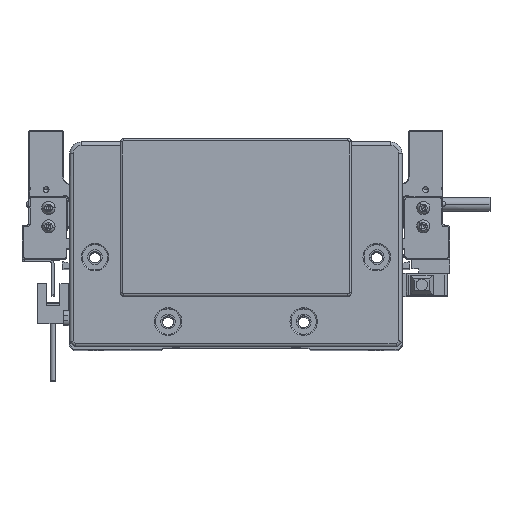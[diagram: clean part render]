
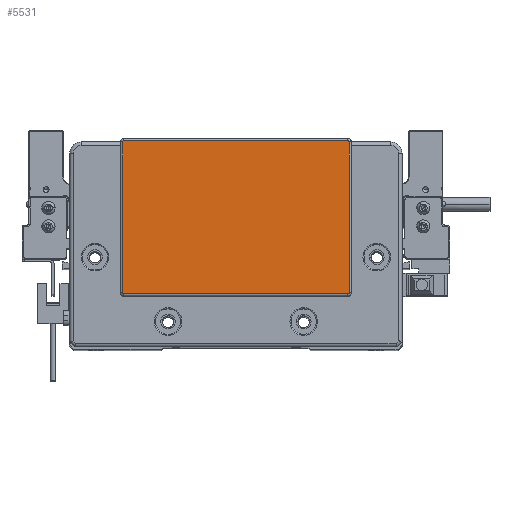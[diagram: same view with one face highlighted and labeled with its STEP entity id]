
A CAD part, top view. The second image highlights one B-rep face of the part: STEP entity #5531.
In plain terms, the highlighted planar face has unit normal (0, 0, 1) as drawn and (0, 0, -1) by its records, which use the part's own axes.
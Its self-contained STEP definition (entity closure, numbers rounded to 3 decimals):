
#773 = CIRCLE ( 'NONE', #60019, 0.5 ) ;
#1262 = LINE ( 'NONE', #47114, #17023 ) ;
#1528 = VECTOR ( 'NONE', #57333, 1000. ) ;
#2898 = VERTEX_POINT ( 'NONE', #42552 ) ;
#4297 = LINE ( 'NONE', #51646, #1528 ) ;
#5531 = ADVANCED_FACE ( 'NONE', ( #73326 ), #15737, .T. ) ;
#7217 = DIRECTION ( 'NONE',  ( 0., 0., -1. ) ) ;
#7419 = CARTESIAN_POINT ( 'NONE',  ( -48.75, -22.3, -2. ) ) ;
#9794 = EDGE_CURVE ( 'NONE', #39816, #46398, #71436, .T. ) ;
#10434 = CARTESIAN_POINT ( 'NONE',  ( -48.75, 43.8, -2. ) ) ;
#12453 = VECTOR ( 'NONE', #33085, 1000. ) ;
#12743 = DIRECTION ( 'NONE',  ( -1., 0., 0. ) ) ;
#13107 = EDGE_CURVE ( 'NONE', #2898, #23479, #33836, .T. ) ;
#14594 = VERTEX_POINT ( 'NONE', #24204 ) ;
#15704 = VERTEX_POINT ( 'NONE', #34223 ) ;
#15737 = PLANE ( 'NONE',  #56465 ) ;
#17023 = VECTOR ( 'NONE', #36115, 1000. ) ;
#20316 = CARTESIAN_POINT ( 'NONE',  ( 49.25, -21.8, -2. ) ) ;
#22622 = EDGE_CURVE ( 'NONE', #15704, #2898, #62664, .T. ) ;
#23361 = CIRCLE ( 'NONE', #42710, 0.5 ) ;
#23479 = VERTEX_POINT ( 'NONE', #20316 ) ;
#24204 = CARTESIAN_POINT ( 'NONE',  ( -49.25, 43.8, -2. ) ) ;
#25824 = CARTESIAN_POINT ( 'NONE',  ( 48.75, -22.3, -2. ) ) ;
#26953 = CARTESIAN_POINT ( 'NONE',  ( -49.25, -21.8, -2. ) ) ;
#29198 = ORIENTED_EDGE ( 'NONE', *, *, #32524, .T. ) ;
#32317 = VERTEX_POINT ( 'NONE', #26953 ) ;
#32443 = CARTESIAN_POINT ( 'NONE',  ( 0., 0., -2. ) ) ;
#32524 = EDGE_CURVE ( 'NONE', #46398, #32317, #23361, .T. ) ;
#33085 = DIRECTION ( 'NONE',  ( 0., -1., 0. ) ) ;
#33836 = LINE ( 'NONE', #56547, #12453 ) ;
#34223 = CARTESIAN_POINT ( 'NONE',  ( 48.75, 44.3, -2. ) ) ;
#36018 = DIRECTION ( 'NONE',  ( -1., 0., 0. ) ) ;
#36115 = DIRECTION ( 'NONE',  ( 1., 0., 0. ) ) ;
#36523 = EDGE_CURVE ( 'NONE', #14594, #52610, #48010, .T. ) ;
#38100 = DIRECTION ( 'NONE',  ( 0., 0., -1. ) ) ;
#39816 = VERTEX_POINT ( 'NONE', #25824 ) ;
#40504 = VECTOR ( 'NONE', #12743, 1000. ) ;
#42393 = DIRECTION ( 'NONE',  ( 0., 0., -1. ) ) ;
#42552 = CARTESIAN_POINT ( 'NONE',  ( 49.25, 43.8, -2. ) ) ;
#42710 = AXIS2_PLACEMENT_3D ( 'NONE', #65549, #7217, #36018 ) ;
#43047 = DIRECTION ( 'NONE',  ( -1., 0., 0. ) ) ;
#46398 = VERTEX_POINT ( 'NONE', #61562 ) ;
#46769 = ORIENTED_EDGE ( 'NONE', *, *, #9794, .T. ) ;
#46970 = ORIENTED_EDGE ( 'NONE', *, *, #59697, .T. ) ;
#47114 = CARTESIAN_POINT ( 'NONE',  ( 48.75, 44.3, -2. ) ) ;
#48010 = CIRCLE ( 'NONE', #67364, 0.5 ) ;
#48102 = AXIS2_PLACEMENT_3D ( 'NONE', #66703, #61022, #55344 ) ;
#49365 = EDGE_CURVE ( 'NONE', #32317, #14594, #4297, .T. ) ;
#49831 = DIRECTION ( 'NONE',  ( -1., 0., 0. ) ) ;
#50034 = ORIENTED_EDGE ( 'NONE', *, *, #52225, .T. ) ;
#51646 = CARTESIAN_POINT ( 'NONE',  ( -49.25, 43.8, -2. ) ) ;
#52225 = EDGE_CURVE ( 'NONE', #23479, #39816, #773, .T. ) ;
#52610 = VERTEX_POINT ( 'NONE', #71477 ) ;
#53075 = ORIENTED_EDGE ( 'NONE', *, *, #22622, .T. ) ;
#55344 = DIRECTION ( 'NONE',  ( -1., 0., 0. ) ) ;
#56465 = AXIS2_PLACEMENT_3D ( 'NONE', #32443, #66151, #43047 ) ;
#56547 = CARTESIAN_POINT ( 'NONE',  ( 49.25, -21.8, -2. ) ) ;
#57333 = DIRECTION ( 'NONE',  ( 0., 1., 0. ) ) ;
#58077 = ORIENTED_EDGE ( 'NONE', *, *, #36523, .T. ) ;
#59126 = ORIENTED_EDGE ( 'NONE', *, *, #13107, .T. ) ;
#59697 = EDGE_CURVE ( 'NONE', #52610, #15704, #1262, .T. ) ;
#60019 = AXIS2_PLACEMENT_3D ( 'NONE', #65871, #42393, #60931 ) ;
#60269 = EDGE_LOOP ( 'NONE', ( #59126, #50034, #46769, #29198, #64222, #58077, #46970, #53075 ) ) ;
#60931 = DIRECTION ( 'NONE',  ( -1., 0., 0. ) ) ;
#61022 = DIRECTION ( 'NONE',  ( 0., 0., -1. ) ) ;
#61562 = CARTESIAN_POINT ( 'NONE',  ( -48.75, -22.3, -2. ) ) ;
#62664 = CIRCLE ( 'NONE', #48102, 0.5 ) ;
#64222 = ORIENTED_EDGE ( 'NONE', *, *, #49365, .T. ) ;
#65549 = CARTESIAN_POINT ( 'NONE',  ( -48.75, -21.8, -2. ) ) ;
#65871 = CARTESIAN_POINT ( 'NONE',  ( 48.75, -21.8, -2. ) ) ;
#66151 = DIRECTION ( 'NONE',  ( 0., 0., -1. ) ) ;
#66703 = CARTESIAN_POINT ( 'NONE',  ( 48.75, 43.8, -2. ) ) ;
#67364 = AXIS2_PLACEMENT_3D ( 'NONE', #10434, #38100, #49831 ) ;
#71436 = LINE ( 'NONE', #7419, #40504 ) ;
#71477 = CARTESIAN_POINT ( 'NONE',  ( -48.75, 44.3, -2. ) ) ;
#73326 = FACE_OUTER_BOUND ( 'NONE', #60269, .T. ) ;
